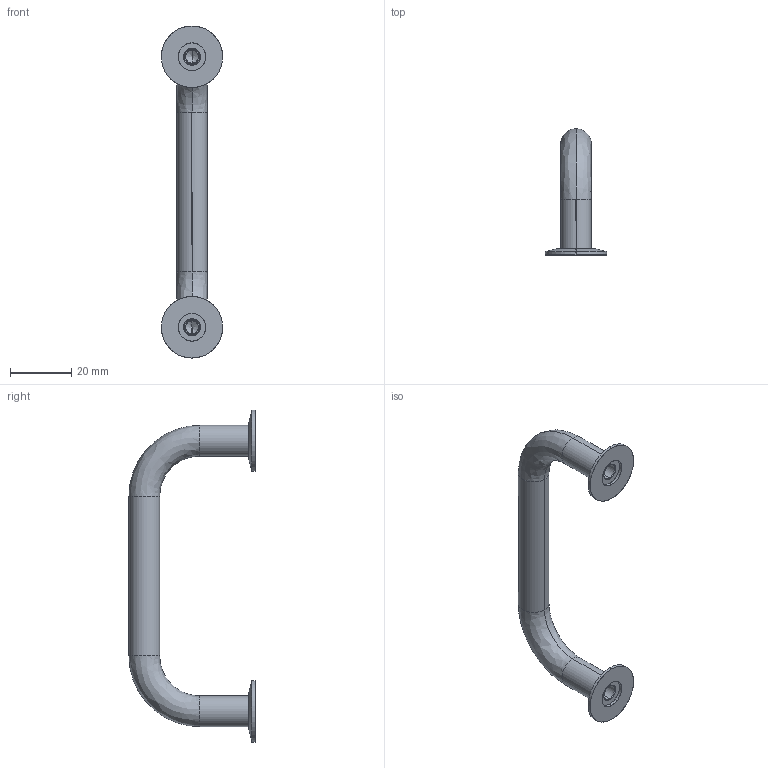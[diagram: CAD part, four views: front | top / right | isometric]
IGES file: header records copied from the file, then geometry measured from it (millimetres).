
Start section: SolidWorks IGES file using analytic representation for surfaces
Global section: file name: C:\Documents and Settings\IANO\Desktop\Temp File\Process pending\PCN pending\78700_v2\78700_v2_20170116_IGES\78700.W0508.igs; native system: SolidWorks 2009; preprocessor: SolidWorks 2009; author: IANO; date: 170310.095806; units: millimetre
Bounding box: 20 x 41 x 108 mm (x, y, z)
Surface area: 6200.4 mm2 (no closed solid volume)
Topology: 0 solids, 0 shells, 52 faces, 808 edges, 804 vertices
Faces by surface type: revolution 38, bspline 14
